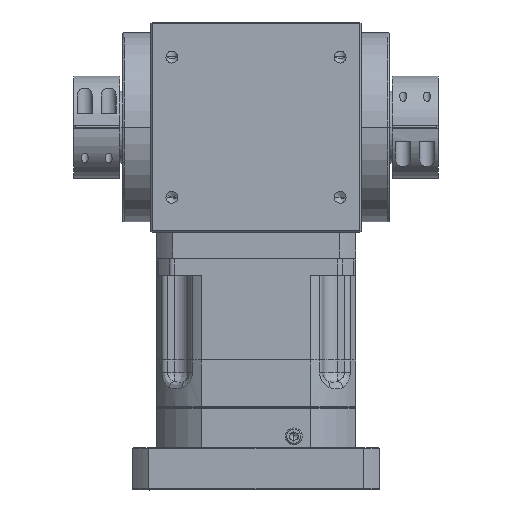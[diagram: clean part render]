
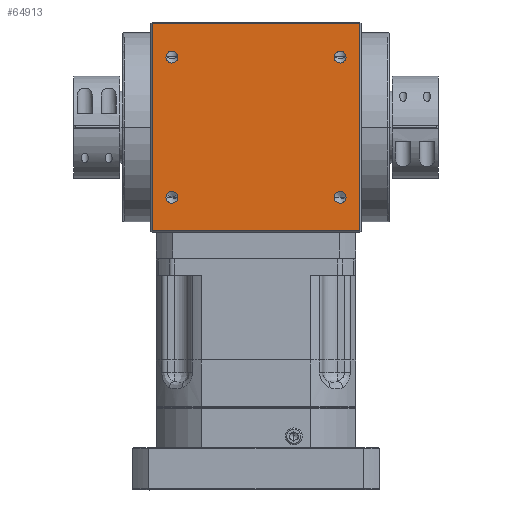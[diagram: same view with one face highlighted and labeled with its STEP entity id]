
A CAD part, top view. The second image highlights one B-rep face of the part: STEP entity #64913.
In plain terms, the highlighted planar face has unit normal (0, 0, 1).
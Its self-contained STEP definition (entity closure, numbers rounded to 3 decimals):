
#698 = DIRECTION ( 'NONE',  ( 0., 1., 0. ) ) ;
#1861 = ORIENTED_EDGE ( 'NONE', *, *, #21118, .F. ) ;
#2260 = ORIENTED_EDGE ( 'NONE', *, *, #75550, .T. ) ;
#2517 = CARTESIAN_POINT ( 'NONE',  ( 60., 50., 75. ) ) ;
#2933 = DIRECTION ( 'NONE',  ( 0., 0., 1. ) ) ;
#4688 = ORIENTED_EDGE ( 'NONE', *, *, #95373, .F. ) ;
#6249 = VERTEX_POINT ( 'NONE', #100625 ) ;
#7076 = CARTESIAN_POINT ( 'NONE',  ( -74., 0., 75. ) ) ;
#9498 = EDGE_CURVE ( 'NONE', #77672, #67506, #96006, .T. ) ;
#10139 = CARTESIAN_POINT ( 'NONE',  ( 0., -74., 75. ) ) ;
#10551 = DIRECTION ( 'NONE',  ( 1., 0., 0. ) ) ;
#12281 = CARTESIAN_POINT ( 'NONE',  ( 55.75, 50., 75. ) ) ;
#12672 = EDGE_LOOP ( 'NONE', ( #84381, #4688 ) ) ;
#12878 = EDGE_LOOP ( 'NONE', ( #102069, #100859 ) ) ;
#13436 = CIRCLE ( 'NONE', #79779, 4.25 ) ;
#13540 = CARTESIAN_POINT ( 'NONE',  ( 60., -50., 75. ) ) ;
#14268 = VECTOR ( 'NONE', #41439, 1000. ) ;
#14767 = VECTOR ( 'NONE', #698, 1000. ) ;
#15064 = CARTESIAN_POINT ( 'NONE',  ( -74., 74., 75. ) ) ;
#17805 = FACE_BOUND ( 'NONE', #12878, .T. ) ;
#21118 = EDGE_CURVE ( 'NONE', #67506, #69530, #51309, .T. ) ;
#21535 = DIRECTION ( 'NONE',  ( 1., 0., 0. ) ) ;
#22057 = VERTEX_POINT ( 'NONE', #24778 ) ;
#24176 = DIRECTION ( 'NONE',  ( 0., 0., 1. ) ) ;
#24358 = DIRECTION ( 'NONE',  ( 0., 0., 1. ) ) ;
#24778 = CARTESIAN_POINT ( 'NONE',  ( 64.25, 50., 75. ) ) ;
#27303 = CARTESIAN_POINT ( 'NONE',  ( -60., -50., 75. ) ) ;
#29775 = EDGE_CURVE ( 'NONE', #57936, #36636, #47401, .T. ) ;
#32689 = DIRECTION ( 'NONE',  ( -1., 0., 0. ) ) ;
#33392 = CARTESIAN_POINT ( 'NONE',  ( -60., 50., 75. ) ) ;
#35285 = DIRECTION ( 'NONE',  ( 1., 0., 0. ) ) ;
#35303 = EDGE_LOOP ( 'NONE', ( #101068, #48465 ) ) ;
#35729 = ORIENTED_EDGE ( 'NONE', *, *, #88588, .F. ) ;
#35750 = AXIS2_PLACEMENT_3D ( 'NONE', #33392, #88243, #41262 ) ;
#36314 = FACE_OUTER_BOUND ( 'NONE', #75664, .T. ) ;
#36636 = VERTEX_POINT ( 'NONE', #79960 ) ;
#38768 = FACE_BOUND ( 'NONE', #52648, .T. ) ;
#41262 = DIRECTION ( 'NONE',  ( 1., 0., 0. ) ) ;
#41439 = DIRECTION ( 'NONE',  ( 0., -1., 0. ) ) ;
#41663 = CARTESIAN_POINT ( 'NONE',  ( -64.25, -50., 75. ) ) ;
#43997 = AXIS2_PLACEMENT_3D ( 'NONE', #2517, #57856, #10551 ) ;
#45238 = ORIENTED_EDGE ( 'NONE', *, *, #9498, .F. ) ;
#47401 = CIRCLE ( 'NONE', #100143, 4.25 ) ;
#48066 = CARTESIAN_POINT ( 'NONE',  ( 74., -74., 75. ) ) ;
#48465 = ORIENTED_EDGE ( 'NONE', *, *, #86915, .F. ) ;
#49431 = CIRCLE ( 'NONE', #90582, 4.25 ) ;
#49820 = DIRECTION ( 'NONE',  ( 1., 0., 0. ) ) ;
#50286 = CARTESIAN_POINT ( 'NONE',  ( 60., -50., 75. ) ) ;
#51309 = LINE ( 'NONE', #65792, #74625 ) ;
#51556 = VERTEX_POINT ( 'NONE', #12281 ) ;
#52648 = EDGE_LOOP ( 'NONE', ( #100311, #35729 ) ) ;
#53155 = CARTESIAN_POINT ( 'NONE',  ( -55.75, 50., 75. ) ) ;
#53327 = AXIS2_PLACEMENT_3D ( 'NONE', #27303, #82272, #35285 ) ;
#57243 = FACE_BOUND ( 'NONE', #12672, .T. ) ;
#57856 = DIRECTION ( 'NONE',  ( 0., 0., 1. ) ) ;
#57936 = VERTEX_POINT ( 'NONE', #53155 ) ;
#58228 = DIRECTION ( 'NONE',  ( 1., 0., 0. ) ) ;
#58705 = LINE ( 'NONE', #80531, #14268 ) ;
#62023 = CIRCLE ( 'NONE', #53327, 4.25 ) ;
#64913 = ADVANCED_FACE ( 'NONE', ( #78033, #38768, #17805, #57243, #36314 ), #71727, .F. ) ;
#65792 = CARTESIAN_POINT ( 'NONE',  ( 0., 74., 75. ) ) ;
#66536 = DIRECTION ( 'NONE',  ( 1., 0., 0. ) ) ;
#66887 = CARTESIAN_POINT ( 'NONE',  ( 74., 74., 75. ) ) ;
#67506 = VERTEX_POINT ( 'NONE', #15064 ) ;
#68475 = EDGE_CURVE ( 'NONE', #69530, #76179, #58705, .T. ) ;
#68569 = DIRECTION ( 'NONE',  ( 0., 0., 1. ) ) ;
#69530 = VERTEX_POINT ( 'NONE', #66887 ) ;
#69694 = CARTESIAN_POINT ( 'NONE',  ( 55.75, -50., 75. ) ) ;
#70886 = DIRECTION ( 'NONE',  ( 1., 0., 0. ) ) ;
#70966 = DIRECTION ( 'NONE',  ( 0., 0., 1. ) ) ;
#70982 = CARTESIAN_POINT ( 'NONE',  ( -60., 50., 75. ) ) ;
#71186 = CARTESIAN_POINT ( 'NONE',  ( -60., -50., 75. ) ) ;
#71360 = CARTESIAN_POINT ( 'NONE',  ( 60., 50., 75. ) ) ;
#71727 = PLANE ( 'NONE',  #91655 ) ;
#73429 = AXIS2_PLACEMENT_3D ( 'NONE', #71360, #24358, #79321 ) ;
#74625 = VECTOR ( 'NONE', #66536, 1000. ) ;
#75538 = CIRCLE ( 'NONE', #35750, 4.25 ) ;
#75550 = EDGE_CURVE ( 'NONE', #77672, #76179, #77261, .T. ) ;
#75664 = EDGE_LOOP ( 'NONE', ( #2260, #75955, #1861, #45238 ) ) ;
#75955 = ORIENTED_EDGE ( 'NONE', *, *, #68475, .F. ) ;
#76179 = VERTEX_POINT ( 'NONE', #82618 ) ;
#76208 = CIRCLE ( 'NONE', #43997, 4.25 ) ;
#76326 = EDGE_CURVE ( 'NONE', #81779, #90388, #13436, .T. ) ;
#76735 = VERTEX_POINT ( 'NONE', #69694 ) ;
#77261 = LINE ( 'NONE', #10139, #98228 ) ;
#77672 = VERTEX_POINT ( 'NONE', #89699 ) ;
#78033 = FACE_BOUND ( 'NONE', #35303, .T. ) ;
#79145 = DIRECTION ( 'NONE',  ( 1., 0., 0. ) ) ;
#79321 = DIRECTION ( 'NONE',  ( 1., 0., 0. ) ) ;
#79690 = DIRECTION ( 'NONE',  ( 0., 0., -1. ) ) ;
#79779 = AXIS2_PLACEMENT_3D ( 'NONE', #71186, #24176, #79145 ) ;
#79960 = CARTESIAN_POINT ( 'NONE',  ( -64.25, 50., 75. ) ) ;
#80531 = CARTESIAN_POINT ( 'NONE',  ( 74., 0., 75. ) ) ;
#81779 = VERTEX_POINT ( 'NONE', #91260 ) ;
#82272 = DIRECTION ( 'NONE',  ( 0., 0., 1. ) ) ;
#82618 = CARTESIAN_POINT ( 'NONE',  ( 74., -74., 75. ) ) ;
#83919 = CIRCLE ( 'NONE', #73429, 4.25 ) ;
#84381 = ORIENTED_EDGE ( 'NONE', *, *, #29775, .F. ) ;
#85316 = CIRCLE ( 'NONE', #88714, 4.25 ) ;
#86915 = EDGE_CURVE ( 'NONE', #76735, #6249, #49431, .T. ) ;
#87602 = EDGE_CURVE ( 'NONE', #22057, #51556, #76208, .T. ) ;
#88243 = DIRECTION ( 'NONE',  ( 0., 0., 1. ) ) ;
#88588 = EDGE_CURVE ( 'NONE', #90388, #81779, #62023, .T. ) ;
#88714 = AXIS2_PLACEMENT_3D ( 'NONE', #50286, #2933, #58228 ) ;
#89699 = CARTESIAN_POINT ( 'NONE',  ( -74., -74., 75. ) ) ;
#90388 = VERTEX_POINT ( 'NONE', #41663 ) ;
#90582 = AXIS2_PLACEMENT_3D ( 'NONE', #13540, #68569, #21535 ) ;
#91260 = CARTESIAN_POINT ( 'NONE',  ( -55.75, -50., 75. ) ) ;
#91655 = AXIS2_PLACEMENT_3D ( 'NONE', #48066, #79690, #32689 ) ;
#92201 = EDGE_CURVE ( 'NONE', #51556, #22057, #83919, .T. ) ;
#95373 = EDGE_CURVE ( 'NONE', #36636, #57936, #75538, .T. ) ;
#96006 = LINE ( 'NONE', #7076, #14767 ) ;
#98228 = VECTOR ( 'NONE', #49820, 1000. ) ;
#98390 = EDGE_CURVE ( 'NONE', #6249, #76735, #85316, .T. ) ;
#100143 = AXIS2_PLACEMENT_3D ( 'NONE', #70982, #70966, #70886 ) ;
#100311 = ORIENTED_EDGE ( 'NONE', *, *, #76326, .F. ) ;
#100625 = CARTESIAN_POINT ( 'NONE',  ( 64.25, -50., 75. ) ) ;
#100859 = ORIENTED_EDGE ( 'NONE', *, *, #92201, .F. ) ;
#101068 = ORIENTED_EDGE ( 'NONE', *, *, #98390, .F. ) ;
#102069 = ORIENTED_EDGE ( 'NONE', *, *, #87602, .F. ) ;
